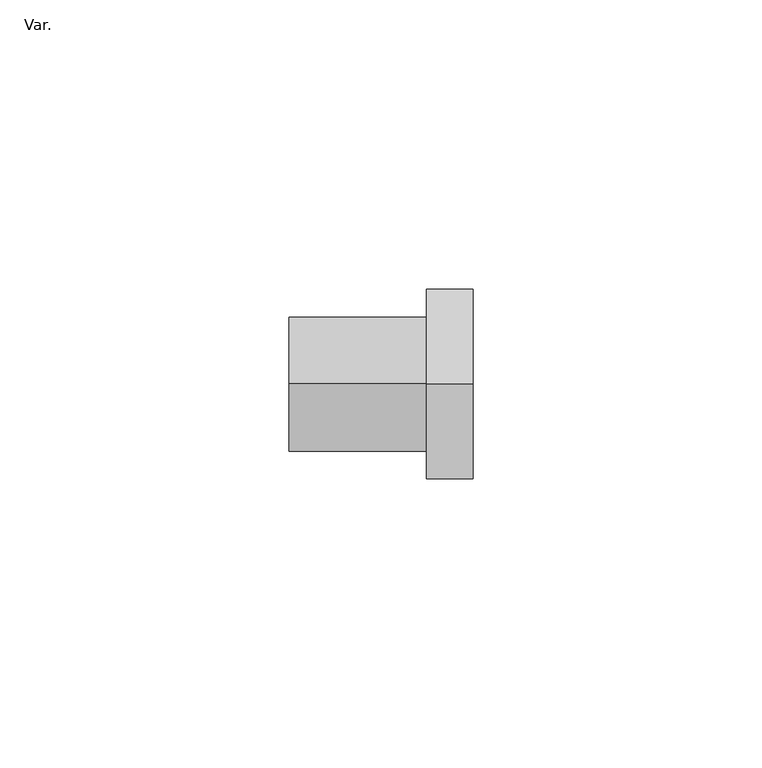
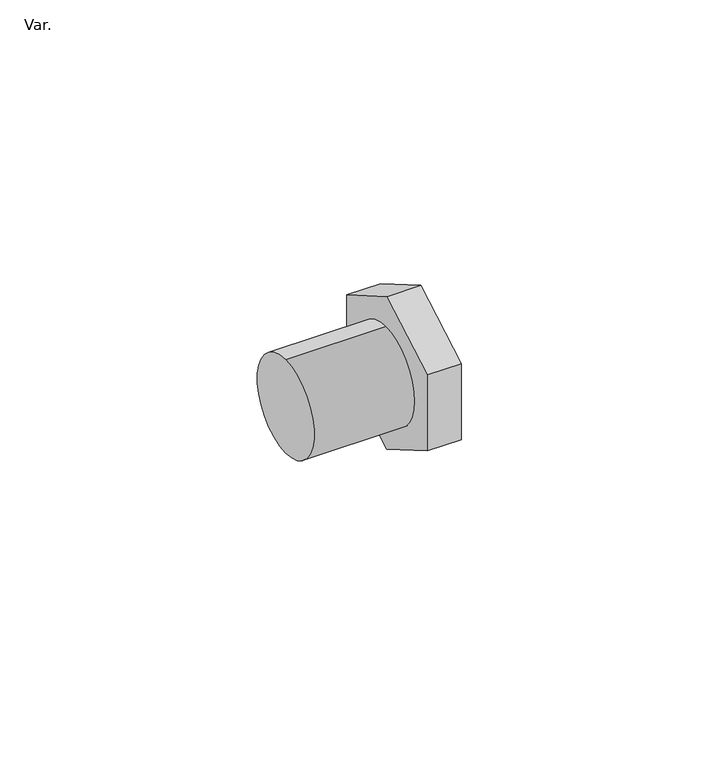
"""IFC4 building model written with IfcOpenShell, lengths in millimetres: pipe fitting geometry, AmancoWavin_Unionesdetubería_TigrisFlexZNoUsarRoscaMacho-MachoManifold(nested) : Var.."""

from ifc_helpers import new_model, si_unit, point, frame, origin, origin_2d, place, context, project, spatial, polyline, circle_curve, trimmed, segment, composite_curve, outline, extrude, source, transform, mapped, element, save


def var_874b99da(model_context):
    return source(origin(), model_context, "Body", "SweptSolid", [
        extrude(outline(polyline([(16.4, -9.4685444), (0.0, -18.9370888), (-16.4, -9.4685444), (-16.4, 9.4685444), (0.0, 18.9370888), (16.4, 9.4685444), (16.4, -9.4685444)])), frame((-38.2, 0.0, 0.0), z_axis=(1.0, 0.0, 0.0), x_axis=(0.0, 1.0, 0.0)), (0.0, 0.0, 1.0), 8.0),
        extrude(outline(composite_curve([segment(trimmed(circle_curve(origin_2d(), 11.6), [point((0.0, -11.6))], [point((0.0, 11.6))], False, "CARTESIAN"), True, "CONTINUOUS"), segment(trimmed(circle_curve(origin_2d(), 11.6), [point((0.0, 11.6))], [point((0.0, -11.6))], False, "CARTESIAN"), True, "CONTINUOUS")], self_intersect=False)), frame((-62.0, 0.0, 0.0), z_axis=(1.0, 0.0, 0.0), x_axis=(0.0, 1.0, 0.0)), (0.0, 0.0, 1.0), 23.8),
    ])


if __name__ == "__main__":
    model = new_model("IFC4")
    model_context = context("Model", 3, world=origin())
    ifc_project = project(units=[si_unit("LENGTHUNIT", "METRE", prefix="MILLI")], contexts=[model_context])
    site = spatial("IfcSite", under=ifc_project)
    building = spatial("IfcBuilding", under=site)
    placement = place(None, origin())
    var_shape = var_874b99da(model_context)
    element("IfcPipeFitting", 1, ObjectType="AmancoWavin_Unionesdetubería_TigrisFlexZNoUsarRoscaMacho-MachoManifold(nested) : Var.", at=placement, inside=building, context=model_context, shape_type="MappedRepresentation", body=[
        mapped(var_shape, transform((0.0, 0.0, 0.0), x_axis=(1.0, 0.0, 0.0), y_axis=(0.0, 1.0, 0.0), z_axis=(0.0, 0.0, 1.0))),
    ])
    save(model, "model.ifc")
